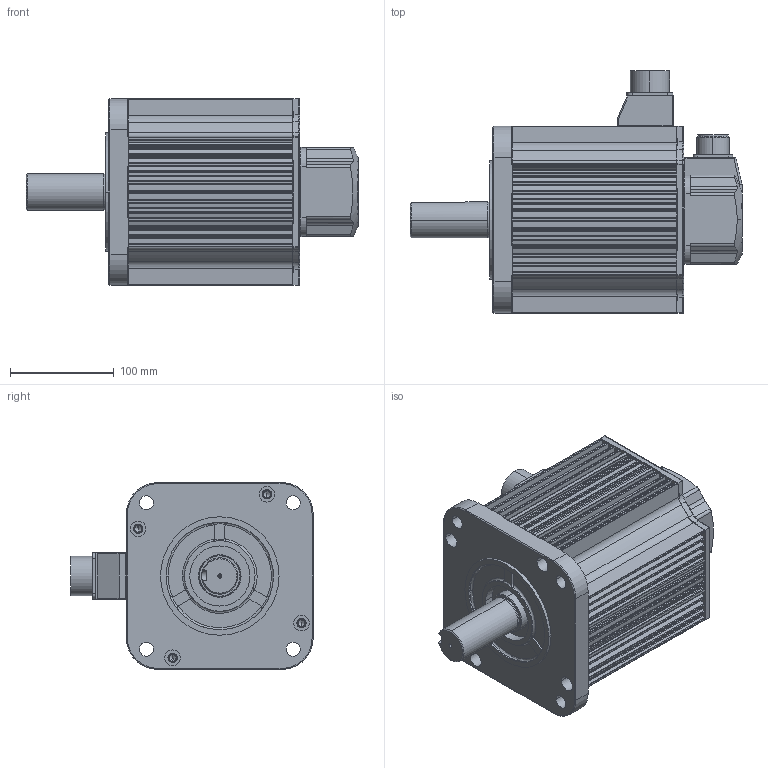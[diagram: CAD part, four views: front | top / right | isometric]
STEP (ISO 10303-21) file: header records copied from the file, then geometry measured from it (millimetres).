
FILE_DESCRIPTION (( 'STEP AP203' ), '1' );
FILE_NAME ('KANH-30B(BR).STEP', '2026-09-12T02:56:54', ( '' ), ( '' ), 'SwSTEP 2.0', 'SolidWorks 2023', '' );
FILE_SCHEMA (( 'CONFIG_CONTROL_DESIGN' ));
Length unit declared in the file: millimetre
Products named in the file (11): □180-161.5mm(3.0kW,BR,MS24); 1005052200 ENCODER COVER; MS3102A 24_표준; □180 FLANGE; Ø35-KEY10X50; 10050523 GASKET_돌출형; □180 BRACKET_BR; MS3102A 20-29P; KANH-30B(BR); 10050907 RUBBER SEAL_MS22 or MS24; 10050908 CONNECTOR BOX_MS22 or MS24
Assembly tree (10 placements, depth 2):
  KANH-30B(BR)
    Ø35-KEY10X50
    □180 FLANGE
    □180-161.5mm(3.0kW,BR,MS24)
    □180 BRACKET_BR
    1005052200 ENCODER COVER
    10050523 GASKET_돌출형
    MS3102A 20-29P
    10050907 RUBBER SEAL_MS22 or MS24
    10050908 CONNECTOR BOX_MS22 or MS24
    MS3102A 24_표준
Bounding box: 320.2 x 233.62 x 180 mm (x, y, z)
Volume: 1569090.5 mm3; surface area: 555556.1 mm2
Topology: 10 solids, 10 shells, 1764 faces, 4830 edges, 3140 vertices
Faces by surface type: cylinder 912, plane 605, torus 122, cone 88, bspline 35, sphere 2
Entity records: 60348 total; most frequent: CARTESIAN_POINT 13359, DIRECTION 10018, ORIENTED_EDGE 9588, EDGE_CURVE 4794, AXIS2_PLACEMENT_3D 3855, VERTEX_POINT 3140, VECTOR 2308, LINE 2308
